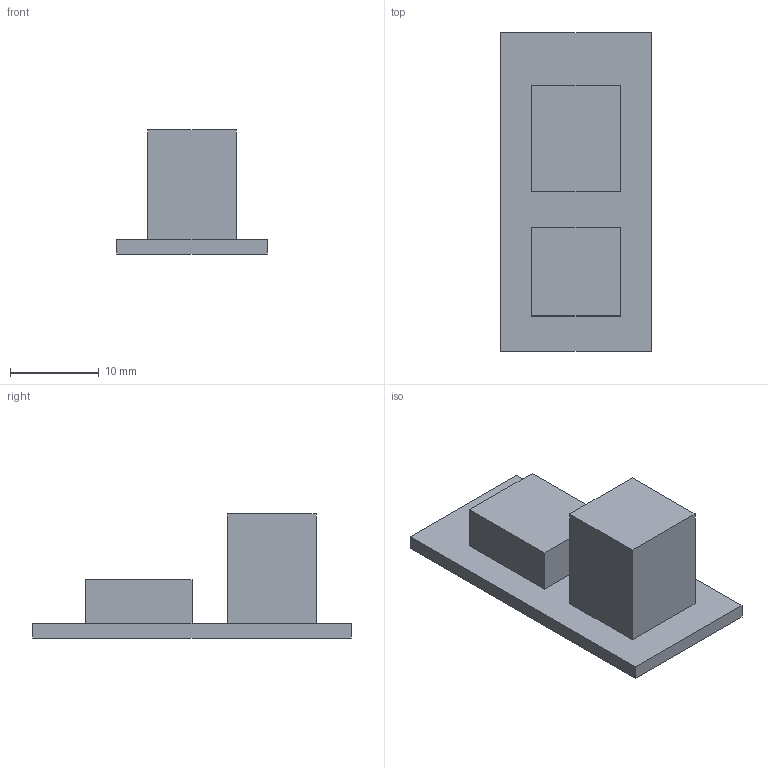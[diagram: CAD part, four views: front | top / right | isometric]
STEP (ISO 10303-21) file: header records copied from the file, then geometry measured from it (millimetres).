
FILE_DESCRIPTION(('Open CASCADE Model'),'2;1');
FILE_NAME('Open CASCADE Shape Model','2026-10-01T12:35:22',('Author'),( 'Open CASCADE'),'Open CASCADE STEP processor 7.8','Open CASCADE 7.8' ,'Unknown');
FILE_SCHEMA(('AUTOMOTIVE_DESIGN { 1 0 10303 214 1 1 1 1 }'));
Length unit declared in the file: millimetre
Products named in the file (2): E08_MT3608_ML2060; E08_MT3608_ML2060_solid
Assembly tree (1 placements, depth 2):
  E08_MT3608_ML2060
    E08_MT3608_ML2060_solid
Bounding box: 17 x 36 x 14 mm (x, y, z)
Volume: 2819.2 mm3; surface area: 2109.6 mm2
Topology: 1 solids, 1 shells, 16 faces, 36 edges, 24 vertices
Faces by surface type: plane 16
Entity records: 945 total; most frequent: CARTESIAN_POINT 150, DIRECTION 144, LINE 108, VECTOR 108, ORIENTED_EDGE 72, PCURVE 72, DEFINITIONAL_REPRESENTATION 72, EDGE_CURVE 36
